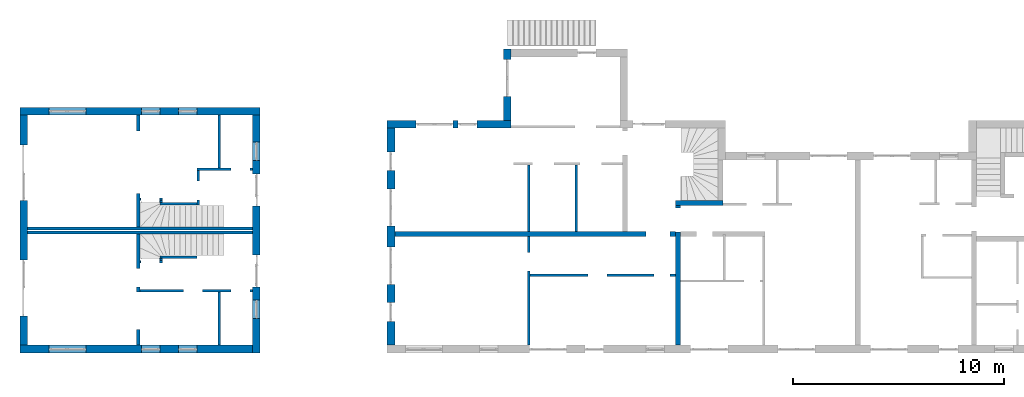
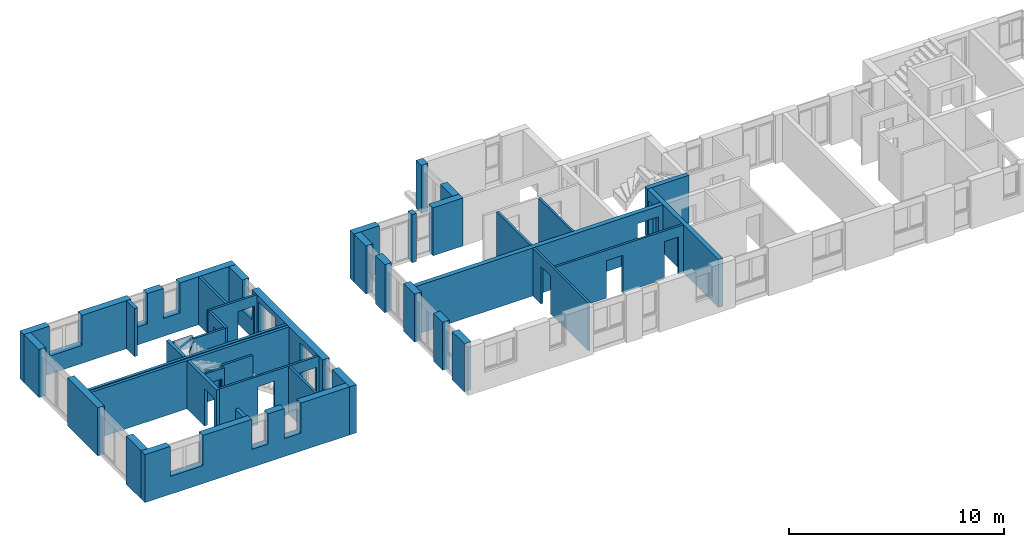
# One storey, part 1 of 41: 31 walls, 31 openings.
"""IFC2X3 building model written with IfcOpenShell, lengths in millimetres."""

import ifcopenshell
import ifcopenshell.guid

model = None  # the IFC model being written
_history = None  # IfcOwnerHistory: only IFC2X3 demands one
_inside = {}  # id of a spatial element -> (the spatial element, [elements in it])
_under = {}  # id of a project, library or spatial element -> (it, [spatial elements below it])
_declared = {}  # id of a project -> (the project, [libraries it declares])
_typed = {}  # id of a type object -> (the type object, [elements of that type])
_made_of = {}  # id of a material, layer set ... -> (it, [elements and type objects made of it])


def new_model(schema):
    """Start an empty IFC model of exactly this schema.

    Asked for "IFC4X3", IfcOpenShell would pick the latest addendum, in which some entities
    have other attributes; the version numbers below select the first issue.
    IFC2X3 requires an IfcOwnerHistory on every rooted entity: one is made here for all.
    """
    global model, _history
    if schema == "IFC4X3":
        model = ifcopenshell.file(schema_version=(4, 3, 0, 0))
    else:
        model = ifcopenshell.file(schema=schema)
    _inside.clear()
    _under.clear()
    _declared.clear()
    _typed.clear()
    _made_of.clear()
    _history = None
    if model.schema == "IFC2X3":
        org = make("IfcOrganization", Name="unknown")
        user = make(
            "IfcPersonAndOrganization",
            ThePerson=make("IfcPerson", FamilyName="unknown"),
            TheOrganization=org,
        )
        app = make(
            "IfcApplication",
            ApplicationDeveloper=org,
            Version="unknown",
            ApplicationFullName="unknown",
            ApplicationIdentifier="unknown",
        )
        _history = make(
            "IfcOwnerHistory",
            OwningUser=user,
            OwningApplication=app,
            ChangeAction="ADDED",
            CreationDate=0,
        )
    return model


def make(cls, **values):
    """One entity of the class cls with the attributes given. An attribute that is None is left unset."""
    return model.create_entity(
        cls, **{name: value for name, value in values.items() if value is not None}
    )


def entity(cls, *values):
    """Any entity or typed value of the class cls, its attributes in the order of the schema. None: left unset."""
    e = model.create_entity(cls)
    for i, value in enumerate(values):
        if value is not None:
            e[i] = value
    return e


def rooted(cls, **values):
    """An entity with a GlobalId (a new one), such as an element, a storey or a relation."""
    return make(cls, GlobalId=ifcopenshell.guid.new(), OwnerHistory=_history, **values)


def si_unit(unit_type, name, prefix=None):
    """IfcSIUnit, for example si_unit("LENGTHUNIT", "METRE", prefix="MILLI")."""
    return make("IfcSIUnit", UnitType=unit_type, Prefix=prefix, Name=name)


def converted_unit(unit_type, name, factor, base, dimensions=None, offset=None):
    """IfcConversionBasedUnit, such as the inch: factor (a typed value) times the base unit."""
    return make(
        "IfcConversionBasedUnit"
        if offset is None
        else "IfcConversionBasedUnitWithOffset",
        ConversionOffset=offset,
        Dimensions=None
        if dimensions is None
        else entity("IfcDimensionalExponents", *dimensions),
        UnitType=unit_type,
        Name=name,
        ConversionFactor=make(
            "IfcMeasureWithUnit", ValueComponent=factor, UnitComponent=base
        ),
    )


def assignment(units):
    """IfcUnitAssignment: the units of a project."""
    return None if units is None else make("IfcUnitAssignment", Units=units)


def point(xyz):
    """IfcCartesianPoint."""
    return None if xyz is None else make("IfcCartesianPoint", Coordinates=xyz)


def direction(xyz):
    """IfcDirection."""
    return None if xyz is None else make("IfcDirection", DirectionRatios=xyz)


def frame(location, z_axis=None, x_axis=None):
    """IfcAxis2Placement3D, a coordinate frame: its origin and axes. An axis left out is left unset."""
    return make(
        "IfcAxis2Placement3D",
        Location=point(location),
        Axis=direction(z_axis),
        RefDirection=direction(x_axis),
    )


def frame_2d(location, x_axis=None):
    """IfcAxis2Placement2D, a coordinate frame in the plane: its origin and x axis."""
    return make(
        "IfcAxis2Placement2D", Location=point(location), RefDirection=direction(x_axis)
    )


def origin():
    """The frame at (0, 0, 0) with its axes left unset."""
    return frame((0.0, 0.0, 0.0))


def origin_with_axes():
    """The frame at (0, 0, 0) with the z axis (0, 0, 1) and the x axis (1, 0, 0) written out."""
    return frame((0.0, 0.0, 0.0), z_axis=(0.0, 0.0, 1.0), x_axis=(1.0, 0.0, 0.0))


def place(relative_to, where):
    """IfcLocalPlacement: puts the frame where relative to a parent placement (None: the world)."""
    return make(
        "IfcLocalPlacement", PlacementRelTo=relative_to, RelativePlacement=where
    )


def context(
    kind, dimensions, precision=None, world=None, true_north=None, identifier=None
):
    """IfcGeometricRepresentationContext, for example the 3D "Model" context."""
    return make(
        "IfcGeometricRepresentationContext",
        ContextIdentifier=identifier,
        ContextType=kind,
        CoordinateSpaceDimension=dimensions,
        Precision=precision,
        WorldCoordinateSystem=world,
        TrueNorth=true_north,
    )


def subcontext(parent, identifier, kind, view, scale=None):
    """IfcGeometricRepresentationSubContext, for example "Body" below "Model"."""
    return make(
        "IfcGeometricRepresentationSubContext",
        ContextIdentifier=identifier,
        ContextType=kind,
        ParentContext=parent,
        TargetScale=scale,
        TargetView=view,
    )


def project(units=None, contexts=None):
    """IfcProject with its units and contexts."""
    return rooted(
        "IfcProject",
        Name="project",
        RepresentationContexts=contexts,
        UnitsInContext=assignment(units),
    )


def spatial(cls, under=None, at=None, **own):
    """A site, building, storey or space (cls), placed at a placement, below another one or the project."""
    s = rooted(cls, ObjectPlacement=at, **own)
    if under is not None:
        _under.setdefault(under.id(), (under, []))[1].append(s)
    return s


def polyline(points):
    """IfcPolyline through the points."""
    return make("IfcPolyline", Points=[point(p) for p in points])


def profile(cls, at=None, kind="AREA", **sizes):
    """A parametric profile (cls). Its sizes go by their IFC names, for example OverallWidth=200.0."""
    return make(cls, ProfileType=kind, Position=at, **sizes)


def rectangle(**sizes):
    """IfcRectangleProfileDef."""
    return profile("IfcRectangleProfileDef", **sizes)


def outline(outer, holes=None, kind="AREA"):
    """IfcArbitraryClosedProfileDef: a profile drawn as a closed curve; with holes, ...WithVoids."""
    if holes is None:
        return make("IfcArbitraryClosedProfileDef", ProfileType=kind, OuterCurve=outer)
    return make(
        "IfcArbitraryProfileDefWithVoids",
        ProfileType=kind,
        OuterCurve=outer,
        InnerCurves=holes,
    )


def extrude(swept, where, along, depth):
    """IfcExtrudedAreaSolid: the profile swept, set in the frame where, extruded along a direction by depth."""
    return make(
        "IfcExtrudedAreaSolid",
        SweptArea=swept,
        Position=where,
        ExtrudedDirection=direction(along),
        Depth=depth,
    )


def shape(context_of_items, identifier, shape_type, items):
    """IfcShapeRepresentation: the items that make up one representation, for example the "Body"."""
    return make(
        "IfcShapeRepresentation",
        ContextOfItems=context_of_items,
        RepresentationIdentifier=identifier,
        RepresentationType=shape_type,
        Items=items,
    )


def material(Name=None, Category=None):
    """IfcMaterial."""
    return make("IfcMaterial", Name=Name, Category=Category)


def layer(
    of_material, thickness, ventilated=None, Name=None, Category=None, Priority=None
):
    """IfcMaterialLayer: one layer of a wall or slab, of a material (None: an air gap)."""
    return make(
        "IfcMaterialLayer",
        Material=of_material,
        LayerThickness=thickness,
        IsVentilated=ventilated,
        Name=Name,
        Category=Category,
        Priority=Priority,
    )


def layer_set(layers, Name=None):
    """IfcMaterialLayerSet."""
    return make("IfcMaterialLayerSet", MaterialLayers=layers, LayerSetName=Name)


def layer_usage(for_layer_set, set_direction, sense, offset, extent=None):
    """IfcMaterialLayerSetUsage: how a layer set lies in its element."""
    return make(
        "IfcMaterialLayerSetUsage",
        ForLayerSet=for_layer_set,
        LayerSetDirection=set_direction,
        DirectionSense=sense,
        OffsetFromReferenceLine=offset,
        ReferenceExtent=extent,
    )


def made_of(thing, what):
    """Note that an element or type object is made of a material, layer set ...; save() writes the relation."""
    if what is not None:
        _made_of.setdefault(what.id(), (what, []))[1].append(thing)
    return thing


def element(
    cls,
    number,
    at=None,
    inside=None,
    cuts=None,
    type_object=None,
    material=None,
    context=None,
    identifier="Body",
    shape_type=None,
    held_by="IfcProductDefinitionShape",
    body=None,
    shapes=None,
    **own,
):
    """One element of the class cls, such as IfcWall. Its Tag is "e" and its number.

    at: its placement. inside: the storey or other place that contains it. cuts: it is an
    opening in that element (IfcRelVoidsElement). A single representation is given by context,
    identifier, shape_type and body (its items); several are given by shapes. held_by: the class
    of the entity that holds the representations. save() writes the other relations.
    """
    e = rooted(cls, Tag="e%d" % number, ObjectPlacement=at, **own)
    if body is not None:
        shapes = [shape(context, identifier, shape_type, body)]
    if shapes is not None:
        e.Representation = make(held_by, Representations=shapes)
    if inside is not None:
        _inside.setdefault(inside.id(), (inside, []))[1].append(e)
    if cuts is not None:
        rooted(
            "IfcRelVoidsElement", RelatingBuildingElement=cuts, RelatedOpeningElement=e
        )
    if type_object is not None:
        _typed.setdefault(type_object.id(), (type_object, []))[1].append(e)
    return made_of(e, material)


def aggregate(whole, parts):
    """IfcRelAggregates: a whole, such as a stair, and the parts it consists of."""
    return rooted("IfcRelAggregates", RelatingObject=whole, RelatedObjects=parts)


def save(model, path):
    """Write the relations noted so far, then the file.

    IfcRelAggregates (storeys below a building ...), IfcRelContainedInSpatialStructure (elements
    in a storey), IfcRelDefinesByType, IfcRelAssociatesMaterial and IfcRelDeclares: one each for
    every whole, place, type object, material and project.
    """
    for whole, parts in _under.values():
        aggregate(whole, parts)
    for where, things in _inside.values():
        rooted(
            "IfcRelContainedInSpatialStructure",
            RelatedElements=things,
            RelatingStructure=where,
        )
    for kind, things in _typed.values():
        rooted("IfcRelDefinesByType", RelatedObjects=things, RelatingType=kind)
    for what, things in _made_of.values():
        rooted("IfcRelAssociatesMaterial", RelatedObjects=things, RelatingMaterial=what)
    for by, libraries in _declared.values():
        rooted("IfcRelDeclares", RelatingContext=by, RelatedDefinitions=libraries)
    model.write(path)


model = new_model("IFC2X3")

# Units and contexts
model_context = context("Model", 3, precision=1e-05, world=origin())
body_context = subcontext(model_context, "Body", "Model", "MODEL_VIEW")
ifc_project = project(units=[si_unit("LENGTHUNIT", "METRE", prefix="MILLI"), converted_unit("PLANEANGLEUNIT", "DEGREE", entity("IfcPlaneAngleMeasure", 0.0174532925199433), si_unit("PLANEANGLEUNIT", "RADIAN"), dimensions=[0, 0, 0, 0, 0, 0, 0]), si_unit("AREAUNIT", "SQUARE_METRE"), si_unit("VOLUMEUNIT", "CUBIC_METRE")], contexts=[model_context])

# Building, storey
building_placement = place(None, origin())
building = spatial("IfcBuilding", under=ifc_project, at=building_placement, Name="Gebäude", CompositionType="ELEMENT")
storey_placement = place(building_placement, frame((0.0, 0.0, -200.0), z_axis=(0.0, 0.0, 1.0), x_axis=(1.0, 0.0, 0.0)))
storey = spatial("IfcBuildingStorey", under=building, at=storey_placement, Name="EG.- Grundriss", CompositionType="ELEMENT", Elevation=-200.0)

# Wall, openings
ifc_material_1 = material(Name="Poroton")
ifc_layer_1 = layer(ifc_material_1, 365.0000000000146)
ifc_layer_set_1 = layer_set([ifc_layer_1])
ifc_layer_usage_1 = layer_usage(ifc_layer_set_1, "AXIS2", "POSITIVE", 0.0)
wall_1_placement = place(storey_placement, frame((130992.7928067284, 125274.8877324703, 0.0), z_axis=(0.0, 0.0, 1.0), x_axis=(1.0, -2.749253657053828e-11, 0.0)))
wall_1 = element("IfcWallStandardCase", 1, at=wall_1_placement, inside=storey, material=ifc_layer_usage_1, Name="<Unnamed Element>", context=body_context, shape_type="SweptSolid", body=[
    extrude(rectangle(XDim=10999.99999999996, YDim=365.0000000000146, at=frame_2d((5499.999999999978, 182.5000000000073), x_axis=(1.0, 0.0))), origin_with_axes(), (0.0, 0.0, 1.0), 2730.0),
])
opening_1_placement = place(wall_1_placement, frame((7489.999999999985, -3.477907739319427e-11, 1020.0), z_axis=(0.0, 1.0, 0.0), x_axis=(0.0, 0.0, 1.0)))
element("IfcOpeningElement", 2, at=opening_1_placement, cuts=wall_1, Name="Fensteröffnung", ObjectType="Opening", context=body_context, shape_type="SweptSolid", body=[
    extrude(rectangle(XDim=1710.0, YDim=885.0, at=frame_2d((855.0, 442.5), x_axis=(1.0, 0.0))), origin_with_axes(), (0.0, 0.0, 1.0), 365.0000000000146),
])
opening_2_placement = place(wall_1_placement, frame((5739.999999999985, -1.658918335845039e-11, 1020.0), z_axis=(0.0, 1.0, 0.0), x_axis=(0.0, 0.0, 1.0)))
element("IfcOpeningElement", 3, at=opening_2_placement, cuts=wall_1, Name="Fensteröffnung", ObjectType="Opening", context=body_context, shape_type="SweptSolid", body=[
    extrude(rectangle(XDim=1710.0, YDim=885.0, at=frame_2d((855.0, 442.5), x_axis=(1.0, 0.0))), origin_with_axes(), (0.0, 0.0, 1.0), 365.0000000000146),
])
opening_3_placement = place(wall_1_placement, frame((1364.999999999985, -7.494236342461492e-12, 1020.0), z_axis=(0.0, 1.0, 0.0), x_axis=(0.0, 0.0, 1.0)))
element("IfcOpeningElement", 4, at=opening_3_placement, cuts=wall_1, Name="Fensteröffnung", ObjectType="Opening", context=body_context, shape_type="SweptSolid", body=[
    extrude(rectangle(XDim=1710.0, YDim=1760.0, at=frame_2d((854.9999999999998, 880.0), x_axis=(1.0, 0.0))), origin_with_axes(), (0.0, 0.0, 1.0), 365.0000000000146),
])

ifc_material_2 = material(Name="Poroton")
ifc_layer_2 = layer(ifc_material_2, 365.0000000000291)
ifc_layer_set_2 = layer_set([ifc_layer_2])
ifc_layer_usage_2 = layer_usage(ifc_layer_set_2, "AXIS2", "POSITIVE", 0.0)
wall_2_placement = place(storey_placement, frame((142357.7928067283, 136889.8877324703, 0.0), z_axis=(0.0, 0.0, 1.0), x_axis=(-1.0, 0.0, 0.0)))
wall_2 = element("IfcWallStandardCase", 5, at=wall_2_placement, inside=storey, material=ifc_layer_usage_2, Name="<Unnamed Element>", context=body_context, shape_type="SweptSolid", body=[
    extrude(rectangle(XDim=11365.00000000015, YDim=365.0000000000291, at=frame_2d((5682.500000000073, 182.5000000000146), x_axis=(1.0, 0.0))), origin_with_axes(), (0.0, 0.0, 1.0), 2730.0),
])
opening_4_placement = place(wall_2_placement, frame((2990.0, 0.0, 1020.0), z_axis=(0.0, 1.0, 0.0), x_axis=(0.0, 0.0, 1.0)))
element("IfcOpeningElement", 6, at=opening_4_placement, cuts=wall_2, Name="Fensteröffnung", ObjectType="Opening", context=body_context, shape_type="SweptSolid", body=[
    extrude(rectangle(XDim=1710.0, YDim=885.0, at=frame_2d((855.0, 442.5), x_axis=(1.0, 0.0))), origin_with_axes(), (0.0, 0.0, 1.0), 365.0000000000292),
])
opening_5_placement = place(wall_2_placement, frame((4740.0, 0.0, 1020.0), z_axis=(0.0, 1.0, 0.0), x_axis=(0.0, 0.0, 1.0)))
element("IfcOpeningElement", 7, at=opening_5_placement, cuts=wall_2, Name="Fensteröffnung", ObjectType="Opening", context=body_context, shape_type="SweptSolid", body=[
    extrude(rectangle(XDim=1710.0, YDim=885.0, at=frame_2d((855.0, 442.5), x_axis=(1.0, 0.0))), origin_with_axes(), (0.0, 0.0, 1.0), 365.0000000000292),
])
opening_6_placement = place(wall_2_placement, frame((8240.0, 0.0, 1020.0), z_axis=(0.0, 1.0, 0.0), x_axis=(0.0, 0.0, 1.0)))
element("IfcOpeningElement", 8, at=opening_6_placement, cuts=wall_2, Name="Fensteröffnung", ObjectType="Opening", context=body_context, shape_type="SweptSolid", body=[
    extrude(rectangle(XDim=1710.0, YDim=1760.0, at=frame_2d((854.9999999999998, 880.0), x_axis=(1.0, 0.0))), origin_with_axes(), (0.0, 0.0, 1.0), 365.0000000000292),
])

ifc_material_3 = material(Name="Poroton")
ifc_layer_3 = layer(ifc_material_3, 365.0000000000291)
ifc_layer_set_3 = layer_set([ifc_layer_3])
ifc_layer_usage_3 = layer_usage(ifc_layer_set_3, "AXIS2", "POSITIVE", 0.0)
wall_3_placement = place(storey_placement, frame((142357.7928067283, 125274.8877321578, 0.0), z_axis=(0.0, 0.0, 1.0), x_axis=(0.0, 1.0, 0.0)))
wall_3 = element("IfcWallStandardCase", 9, at=wall_3_placement, inside=storey, material=ifc_layer_usage_3, Name="<Unnamed Element>", context=body_context, shape_type="SweptSolid", body=[
    extrude(rectangle(XDim=11250.00000031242, YDim=365.0000000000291, at=frame_2d((5625.000000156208, 182.5000000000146), x_axis=(1.0, 0.0))), origin_with_axes(), (0.0, 0.0, 1.0), 2730.0),
])
opening_7_placement = place(wall_3_placement, frame((6955.000000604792, 0.0, 0.0), z_axis=(0.0, 1.0, 0.0), x_axis=(0.0, 0.0, 1.0)))
element("IfcOpeningElement", 10, at=opening_7_placement, cuts=wall_3, Name="Türöffnung", ObjectType="Opening", context=body_context, shape_type="SweptSolid", body=[
    extrude(rectangle(XDim=2430.0, YDim=1510.0, at=frame_2d((1215.0, 755.0), x_axis=(1.0, 0.0))), origin_with_axes(), (0.0, 0.0, 1.0), 365.0000000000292),
])
opening_8_placement = place(wall_3_placement, frame((3125.0, 0.0, 0.0), z_axis=(0.0, 1.0, 0.0), x_axis=(0.0, 0.0, 1.0)))
element("IfcOpeningElement", 11, at=opening_8_placement, cuts=wall_3, Name="Türöffnung", ObjectType="Opening", context=body_context, shape_type="SweptSolid", body=[
    extrude(rectangle(XDim=2430.0, YDim=1510.0, at=frame_2d((1215.0, 755.0), x_axis=(1.0, 0.0))), origin_with_axes(), (0.0, 0.0, 1.0), 365.0000000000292),
])
opening_9_placement = place(wall_3_placement, frame((9105.000000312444, 0.0, 1020.0), z_axis=(0.0, 1.0, 0.0), x_axis=(0.0, 0.0, 1.0)))
element("IfcOpeningElement", 12, at=opening_9_placement, cuts=wall_3, Name="Fensteröffnung", ObjectType="Opening", context=body_context, shape_type="SweptSolid", body=[
    extrude(rectangle(XDim=1710.0, YDim=885.0, at=frame_2d((855.0, 442.5), x_axis=(1.0, 0.0))), origin_with_axes(), (0.0, 0.0, 1.0), 365.0000000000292),
])
opening_10_placement = place(wall_3_placement, frame((1625.0, 0.0, 1020.0), z_axis=(0.0, 1.0, 0.0), x_axis=(0.0, 0.0, 1.0)))
element("IfcOpeningElement", 13, at=opening_10_placement, cuts=wall_3, Name="Fensteröffnung", ObjectType="Opening", context=body_context, shape_type="SweptSolid", body=[
    extrude(rectangle(XDim=1710.0, YDim=885.0, at=frame_2d((855.0, 442.5), x_axis=(1.0, 0.0))), origin_with_axes(), (0.0, 0.0, 1.0), 365.0000000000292),
])

ifc_material_4 = material(Name="Poroton")
ifc_layer_4 = layer(ifc_material_4, 365.0)
ifc_layer_set_4 = layer_set([ifc_layer_4])
ifc_layer_usage_4 = layer_usage(ifc_layer_set_4, "AXIS2", "POSITIVE", 0.0)
wall_4_placement = place(storey_placement, frame((148357.7928067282, 135909.8877324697, 0.0), z_axis=(0.0, 0.0, 1.0), x_axis=(1.70032115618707e-14, -1.0, 0.0)))
wall_4 = element("IfcWallStandardCase", 14, at=wall_4_placement, inside=storey, material=ifc_layer_usage_4, Name="<Unnamed Element>", context=body_context, shape_type="SweptSolid", body=[
    extrude(rectangle(XDim=10269.99999999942, YDim=365.0, at=frame_2d((5134.999999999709, 182.5), x_axis=(1.0, 0.0))), origin_with_axes(), (0.0, 0.0, 1.0), 2730.0),
])
opening_11_placement = place(wall_4_placement, frame((8259.999999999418, -9.487848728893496e-11, 0.0), z_axis=(0.0, 1.0, 0.0), x_axis=(0.0, 0.0, 1.0)))
element("IfcOpeningElement", 15, at=opening_11_placement, cuts=wall_4, Name="Fensteröffnung", ObjectType="Opening", context=body_context, shape_type="SweptSolid", body=[
    extrude(rectangle(XDim=2730.0, YDim=885.0, at=frame_2d((1365.0, 442.5), x_axis=(1.0, 0.0))), origin_with_axes(), (0.0, 0.0, 1.0), 365.0),
])
opening_12_placement = place(wall_4_placement, frame((5634.999999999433, -7.668859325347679e-11, 0.0), z_axis=(0.0, 1.0, 0.0), x_axis=(0.0, 0.0, 1.0)))
element("IfcOpeningElement", 16, at=opening_12_placement, cuts=wall_4, Name="Fensteröffnung", ObjectType="Opening", context=body_context, shape_type="SweptSolid", body=[
    extrude(rectangle(XDim=2730.0, YDim=1760.0, at=frame_2d((1365.0, 880.0), x_axis=(1.0, 0.0))), origin_with_axes(), (0.0, 0.0, 1.0), 365.0),
])
opening_13_placement = place(wall_4_placement, frame((2874.999999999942, -2.54658516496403e-11, 0.0), z_axis=(0.0, 1.0, 0.0), x_axis=(0.0, 0.0, 1.0)))
element("IfcOpeningElement", 17, at=opening_13_placement, cuts=wall_4, Name="Fensteröffnung", ObjectType="Opening", context=body_context, shape_type="SweptSolid", body=[
    extrude(rectangle(XDim=2730.0, YDim=1760.0, at=frame_2d((1365.0, 880.0), x_axis=(1.0, 0.0))), origin_with_axes(), (0.0, 0.0, 1.0), 365.0),
])
opening_14_placement = place(wall_4_placement, frame((1124.999999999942, -3.63797880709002e-12, 0.0), z_axis=(0.0, 1.0, 0.0), x_axis=(0.0, 0.0, 1.0)))
element("IfcOpeningElement", 18, at=opening_14_placement, cuts=wall_4, Name="Fensteröffnung", ObjectType="Opening", context=body_context, shape_type="SweptSolid", body=[
    extrude(rectangle(XDim=2730.0, YDim=885.0, at=frame_2d((1365.0, 442.5), x_axis=(1.0, 0.0))), origin_with_axes(), (0.0, 0.0, 1.0), 365.0),
])

# Wall, opening
ifc_material_5 = material(Name="Poroton")
ifc_layer_5 = layer(ifc_material_5, 365.0000000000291)
ifc_layer_set_5 = layer_set([ifc_layer_5])
ifc_layer_usage_5 = layer_usage(ifc_layer_set_5, "AXIS2", "POSITIVE", 0.0)
wall_5_placement = place(storey_placement, frame((154222.7928067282, 136274.8877324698, 0.0), z_axis=(0.0, 0.0, 1.0), x_axis=(0.0, 1.0, 0.0)))
wall_5 = element("IfcWallStandardCase", 19, at=wall_5_placement, inside=storey, material=ifc_layer_usage_5, Name="<Unnamed Element>", context=body_context, shape_type="SweptSolid", body=[
    extrude(rectangle(XDim=3374.999999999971, YDim=365.0000000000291, at=frame_2d((1687.499999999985, 182.5000000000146), x_axis=(1.0, 0.0))), origin_with_axes(), (0.0, 0.0, 1.0), 2730.0),
])
opening_15_placement = place(wall_5_placement, frame((1124.999999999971, 0.0, 0.0), z_axis=(0.0, 1.0, 0.0), x_axis=(0.0, 0.0, 1.0)))
element("IfcOpeningElement", 20, at=opening_15_placement, cuts=wall_5, Name="Fensteröffnung", ObjectType="Opening", context=body_context, shape_type="SweptSolid", body=[
    extrude(rectangle(XDim=2730.0, YDim=1760.0, at=frame_2d((1365.0, 880.0), x_axis=(1.0, 0.0))), origin_with_axes(), (0.0, 0.0, 1.0), 365.0000000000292),
])

# Wall, openings
ifc_material_6 = material(Name="Poroton")
ifc_layer_6 = layer(ifc_material_6, 365.0000000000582)
ifc_layer_set_6 = layer_set([ifc_layer_6])
ifc_layer_usage_6 = layer_usage(ifc_layer_set_6, "AXIS2", "POSITIVE", 0.0)
wall_6_placement = place(storey_placement, frame((154222.7928067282, 136274.8877324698, 0.0), z_axis=(0.0, 0.0, 1.0), x_axis=(-1.0, 0.0, 0.0)))
wall_6 = element("IfcWallStandardCase", 21, at=wall_6_placement, inside=storey, material=ifc_layer_usage_6, Name="<Unnamed Element>", context=body_context, shape_type="SweptSolid", body=[
    extrude(rectangle(XDim=5865.0, YDim=365.0000000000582, at=frame_2d((2932.5, 182.5000000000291), x_axis=(1.0, 0.0))), origin_with_axes(), (0.0, 0.0, 1.0), 2730.0),
])
opening_16_placement = place(wall_6_placement, frame((1615.0, 0.0, 0.0), z_axis=(0.0, 1.0, 0.0), x_axis=(0.0, 0.0, 1.0)))
element("IfcOpeningElement", 22, at=opening_16_placement, cuts=wall_6, Name="Fensteröffnung", ObjectType="Opening", context=body_context, shape_type="SweptSolid", body=[
    extrude(rectangle(XDim=2730.0, YDim=885.0, at=frame_2d((1365.0, 442.5), x_axis=(1.0, 0.0))), origin_with_axes(), (0.0, 0.0, 1.0), 365.0000000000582),
])
opening_17_placement = place(wall_6_placement, frame((2740.0, 0.0, 0.0), z_axis=(0.0, 1.0, 0.0), x_axis=(0.0, 0.0, 1.0)))
element("IfcOpeningElement", 23, at=opening_17_placement, cuts=wall_6, Name="Fensteröffnung", ObjectType="Opening", context=body_context, shape_type="SweptSolid", body=[
    extrude(rectangle(XDim=2730.0, YDim=1760.0, at=frame_2d((1365.0, 880.0), x_axis=(1.0, 0.0))), origin_with_axes(), (0.0, 0.0, 1.0), 365.0000000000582),
])

# Wall
ifc_material_7 = material(Name="Hlz")
ifc_layer_7 = layer(ifc_material_7, 150.0)
ifc_layer_set_7 = layer_set([ifc_layer_7])
ifc_layer_usage_7 = layer_usage(ifc_layer_set_7, "AXIS2", "POSITIVE", 0.0)
wall_7_placement = place(storey_placement, frame((141992.7928067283, 131049.8877324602, 0.0), z_axis=(0.0, 0.0, 1.0), x_axis=(-1.0, 0.0, 0.0)))
element("IfcWallStandardCase", 24, at=wall_7_placement, inside=storey, material=ifc_layer_usage_7, Name="<Unnamed Element>", context=body_context, shape_type="SweptSolid", body=[
    extrude(rectangle(XDim=10634.99999999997, YDim=150.0, at=frame_2d((5317.499999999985, 75.0), x_axis=(1.0, 0.0))), origin_with_axes(), (0.0, 0.0, 1.0), 2730.0),
])

# Wall, openings
ifc_material_8 = material(Name="Poroton")
ifc_layer_8 = layer(ifc_material_8, 365.0)
ifc_layer_set_8 = layer_set([ifc_layer_8])
ifc_layer_usage_8 = layer_usage(ifc_layer_set_8, "AXIS2", "POSITIVE", 0.0)
wall_8_placement = place(storey_placement, frame((130992.7928067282, 136524.8877324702, 0.0), z_axis=(0.0, 0.0, 1.0), x_axis=(1.336877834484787e-14, -1.0, 0.0)))
wall_8 = element("IfcWallStandardCase", 25, at=wall_8_placement, inside=storey, material=ifc_layer_usage_8, Name="<Unnamed Element>", context=body_context, shape_type="SweptSolid", body=[
    extrude(rectangle(XDim=10884.99999999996, YDim=365.0, at=frame_2d((5442.499999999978, 182.5), x_axis=(1.0, 0.0))), origin_with_axes(), (0.0, 0.0, 1.0), 2730.0),
])
opening_18_placement = place(wall_8_placement, frame((1409.987487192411, 2.31377272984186e-11, 0.0), z_axis=(0.0, 1.0, 0.0), x_axis=(0.0, 0.0, 1.0)))
element("IfcOpeningElement", 26, at=opening_18_placement, cuts=wall_8, Name="Fensteröffnung", ObjectType="Opening", context=body_context, shape_type="SweptSolid", body=[
    extrude(rectangle(XDim=2730.0, YDim=2635.0, at=frame_2d((1365.0, 1317.5), x_axis=(1.0, 0.0))), origin_with_axes(), (0.0, 0.0, 1.0), 364.9999999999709),
])
opening_19_placement = place(wall_8_placement, frame((6864.999999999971, 1.964508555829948e-12, 0.0), z_axis=(0.0, 1.0, 0.0), x_axis=(0.0, 0.0, 1.0)))
element("IfcOpeningElement", 27, at=opening_19_placement, cuts=wall_8, Name="Fensteröffnung", ObjectType="Opening", context=body_context, shape_type="SweptSolid", body=[
    extrude(rectangle(XDim=2730.0, YDim=2635.0, at=frame_2d((1365.0, 1317.5), x_axis=(1.0, 0.0))), origin_with_axes(), (0.0, 0.0, 1.0), 364.9999999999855),
])

# Wall
ifc_material_9 = material(Name="Hlz")
ifc_layer_9 = layer(ifc_material_9, 150.0)
ifc_layer_set_9 = layer_set([ifc_layer_9])
ifc_layer_usage_9 = layer_usage(ifc_layer_set_9, "AXIS2", "POSITIVE", 0.0)
wall_9_placement = place(storey_placement, frame((141992.7928067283, 131239.8877324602, 0.0), z_axis=(0.0, 0.0, 1.0), x_axis=(-1.0, 0.0, 0.0)))
element("IfcWallStandardCase", 28, at=wall_9_placement, inside=storey, material=ifc_layer_usage_9, Name="<Unnamed Element>", context=body_context, shape_type="SweptSolid", body=[
    extrude(rectangle(XDim=10634.99999999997, YDim=150.0, at=frame_2d((5317.499999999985, 75.0), x_axis=(1.0, 0.0))), origin_with_axes(), (0.0, 0.0, 1.0), 2730.0),
])

# Wall, openings
ifc_material_10 = material(Name="Hlz")
ifc_layer_10 = layer(ifc_material_10, 115.0)
ifc_layer_set_10 = layer_set([ifc_layer_10])
ifc_layer_usage_10 = layer_usage(ifc_layer_set_10, "AXIS2", "POSITIVE", 0.0)
wall_10_placement = place(storey_placement, frame((162002.7928067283, 129014.8877324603, 0.0), z_axis=(0.0, 0.0, 1.0), x_axis=(-1.0, 0.0, 0.0)))
wall_10 = element("IfcWallStandardCase", 29, at=wall_10_placement, inside=storey, material=ifc_layer_usage_10, Name="<Unnamed Element>", context=body_context, shape_type="SweptSolid", body=[
    extrude(rectangle(XDim=6885.0, YDim=115.0, at=frame_2d((3442.5, 57.5), x_axis=(1.0, 0.0))), origin_with_axes(), (0.0, 0.0, 1.0), 2730.0),
])
opening_20_placement = place(wall_10_placement, frame((250.0, 0.0, 0.0), z_axis=(0.0, 1.0, 0.0), x_axis=(0.0, 0.0, 1.0)))
element("IfcOpeningElement", 30, at=opening_20_placement, cuts=wall_10, Name="Türöffnung", ObjectType="Opening", context=body_context, shape_type="SweptSolid", body=[
    extrude(rectangle(XDim=2135.0, YDim=760.0, at=frame_2d((1067.5, 380.0), x_axis=(1.0, 0.0))), origin_with_axes(), (0.0, 0.0, 1.0), 115.0),
])
opening_21_placement = place(wall_10_placement, frame((3250.0, 0.0, 0.0), z_axis=(0.0, 1.0, 0.0), x_axis=(0.0, 0.0, 1.0)))
element("IfcOpeningElement", 31, at=opening_21_placement, cuts=wall_10, Name="Türöffnung", ObjectType="Opening", context=body_context, shape_type="SweptSolid", body=[
    extrude(rectangle(XDim=2135.0, YDim=885.0, at=frame_2d((1067.5, 442.5), x_axis=(1.0, 0.0))), origin_with_axes(), (0.0, 0.0, 1.0), 115.0),
])

# Walls
ifc_material_11 = material(Name="Hlz")
ifc_layer_11 = layer(ifc_material_11, 115.0)
ifc_layer_set_11 = layer_set([ifc_layer_11])
ifc_layer_usage_11 = layer_usage(ifc_layer_set_11, "AXIS2", "POSITIVE", 0.0)
wall_11_placement = place(storey_placement, frame((157367.7928067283, 131014.8877324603, 0.0), z_axis=(0.0, 0.0, 1.0), x_axis=(0.0, 0.9999999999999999, 0.0)))
element("IfcWallStandardCase", 32, at=wall_11_placement, inside=storey, material=ifc_layer_usage_11, Name="<Unnamed Element>", context=body_context, shape_type="SweptSolid", body=[
    extrude(rectangle(XDim=3145.000000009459, YDim=115.0, at=frame_2d((1572.500000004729, 57.49999999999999), x_axis=(1.0, 0.0))), origin_with_axes(), (0.0, 0.0, 1.0), 2730.0),
])
ifc_material_12 = material(Name="Hlz")
ifc_layer_12 = layer(ifc_material_12, 115.0)
ifc_layer_set_12 = layer_set([ifc_layer_12])
ifc_layer_usage_12 = layer_usage(ifc_layer_set_12, "AXIS2", "POSITIVE", 0.0)
wall_12_placement = place(storey_placement, frame((155117.7928067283, 131014.8877324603, 0.0), z_axis=(0.0, 0.0, 1.0), x_axis=(0.0, 0.9999999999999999, 0.0)))
element("IfcWallStandardCase", 33, at=wall_12_placement, inside=storey, material=ifc_layer_usage_12, Name="<Unnamed Element>", context=body_context, shape_type="SweptSolid", body=[
    extrude(rectangle(XDim=3145.000000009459, YDim=115.0, at=frame_2d((1572.500000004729, 57.49999999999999), x_axis=(1.0, 0.0))), origin_with_axes(), (0.0, 0.0, 1.0), 2730.0),
])

# Wall, opening
ifc_material_13 = material(Name="Hlz")
ifc_layer_13 = layer(ifc_material_13, 115.0)
ifc_layer_set_13 = layer_set([ifc_layer_13])
ifc_layer_usage_13 = layer_usage(ifc_layer_set_13, "AXIS2", "POSITIVE", 0.0)
wall_13_placement = place(storey_placement, frame((155117.7928067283, 125639.8877322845, 0.0), z_axis=(0.0, 0.0, 1.0), x_axis=(0.0, 0.9999999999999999, 0.0)))
wall_13 = element("IfcWallStandardCase", 34, at=wall_13_placement, inside=storey, material=ifc_layer_usage_13, Name="<Unnamed Element>", context=body_context, shape_type="SweptSolid", body=[
    extrude(rectangle(XDim=5135.000000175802, YDim=115.0, at=frame_2d((2567.500000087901, 57.49999999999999), x_axis=(1.0, 0.0))), origin_with_axes(), (0.0, 0.0, 1.0), 2730.0),
])
opening_22_placement = place(wall_13_placement, frame((3500.000332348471, 0.0, 0.0), z_axis=(0.0, 1.0, 0.0), x_axis=(0.0, 0.0, 1.0)))
element("IfcOpeningElement", 35, at=opening_22_placement, cuts=wall_13, Name="Türöffnung", ObjectType="Opening", context=body_context, shape_type="SweptSolid", body=[
    extrude(rectangle(XDim=2135.0, YDim=885.0, at=frame_2d((1067.5, 442.5), x_axis=(1.0, 0.0))), origin_with_axes(), (0.0, 0.0, 1.0), 115.0),
])

# Walls
ifc_material_14 = material(Name="Hlz")
ifc_layer_14 = layer(ifc_material_14, 115.0)
ifc_layer_set_14 = layer_set([ifc_layer_14])
ifc_layer_usage_14 = layer_usage(ifc_layer_set_14, "AXIS2", "POSITIVE", 0.0)
wall_14_placement = place(storey_placement, frame((140482.7928067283, 134014.8877324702, 0.0), z_axis=(0.0, 0.0, 1.0), x_axis=(0.0, 1.0, 0.0)))
element("IfcWallStandardCase", 36, at=wall_14_placement, inside=storey, material=ifc_layer_usage_14, Name="<Unnamed Element>", context=body_context, shape_type="SweptSolid", body=[
    extrude(rectangle(XDim=2510.0, YDim=115.0, at=frame_2d((1255.0, 57.5), x_axis=(1.0, 0.0))), origin_with_axes(), (0.0, 0.0, 1.0), 2730.0),
])
ifc_material_15 = material(Name="Hlz")
ifc_layer_15 = layer(ifc_material_15, 115.0)
ifc_layer_set_15 = layer_set([ifc_layer_15])
ifc_layer_usage_15 = layer_usage(ifc_layer_set_15, "AXIS2", "POSITIVE", 0.0)
wall_15_placement = place(storey_placement, frame((137726.5907379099, 132395.5589630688, 0.0), z_axis=(0.0, 0.0, 1.0), x_axis=(0.0, 0.9999999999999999, 0.0)))
element("IfcWallStandardCase", 37, at=wall_15_placement, inside=storey, material=ifc_layer_usage_15, Name="<Unnamed Element>", context=body_context, shape_type="SweptSolid", body=[
    extrude(rectangle(XDim=94.3287693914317, YDim=115.0, at=frame_2d((47.16438469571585, 57.49999999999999), x_axis=(1.0, 0.0))), origin_with_axes(), (0.0, 0.0, 1.0), 2730.0),
])

# Wall, opening
ifc_material_16 = material(Name="Hlz")
ifc_layer_16 = layer(ifc_material_16, 115.0)
ifc_layer_set_16 = layer_set([ifc_layer_16])
ifc_layer_usage_16 = layer_usage(ifc_layer_set_16, "AXIS2", "POSITIVE", 0.0)
wall_16_placement = place(storey_placement, frame((141992.7928067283, 134014.8877324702, 0.0), z_axis=(0.0, 0.0, 1.0), x_axis=(-1.0, 0.0, 0.0)))
wall_16 = element("IfcWallStandardCase", 38, at=wall_16_placement, inside=storey, material=ifc_layer_usage_16, Name="<Unnamed Element>", context=body_context, shape_type="SweptSolid", body=[
    extrude(rectangle(XDim=2625.0, YDim=115.0, at=frame_2d((1312.5, 57.5), x_axis=(1.0, 0.0))), origin_with_axes(), (0.0, 0.0, 1.0), 2730.0),
])
opening_23_placement = place(wall_16_placement, frame((125.0, 0.0, 0.0), z_axis=(0.0, 1.0, 0.0), x_axis=(0.0, 0.0, 1.0)))
element("IfcOpeningElement", 39, at=opening_23_placement, cuts=wall_16, Name="Türöffnung", ObjectType="Opening", context=body_context, shape_type="SweptSolid", body=[
    extrude(rectangle(XDim=2135.0, YDim=885.0, at=frame_2d((1067.5, 442.5), x_axis=(1.0, 0.0))), origin_with_axes(), (0.0, 0.0, 1.0), 115.0),
])

ifc_material_17 = material(Name="Hlz")
ifc_layer_17 = layer(ifc_material_17, 115.0)
ifc_layer_set_17 = layer_set([ifc_layer_17])
ifc_layer_usage_17 = layer_usage(ifc_layer_set_17, "AXIS2", "POSITIVE", 0.0)
wall_17_placement = place(storey_placement, frame((139367.7928067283, 133899.8877324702, 0.0), z_axis=(0.0, 0.0, 1.0), x_axis=(0.0, -1.0, 0.0)))
wall_17 = element("IfcWallStandardCase", 40, at=wall_17_placement, inside=storey, material=ifc_layer_usage_17, Name="<Unnamed Element>", context=body_context, shape_type="SweptSolid", body=[
    extrude(rectangle(XDim=1619.328769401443, YDim=115.0, at=frame_2d((809.6643847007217, 57.5), x_axis=(1.0, 0.0))), origin_with_axes(), (0.0, 0.0, 1.0), 2730.0),
])
opening_24_placement = place(wall_17_placement, frame((494.3287694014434, 0.0, 0.0), z_axis=(0.0, 1.0, 0.0), x_axis=(0.0, 0.0, 1.0)))
element("IfcOpeningElement", 41, at=opening_24_placement, cuts=wall_17, Name="Türöffnung", ObjectType="Opening", context=body_context, shape_type="SweptSolid", body=[
    extrude(rectangle(XDim=2135.0, YDim=885.0, at=frame_2d((1067.5, 442.5), x_axis=(1.0, 0.0))), origin_with_axes(), (0.0, 0.0, 1.0), 115.0),
])

# Walls
ifc_material_18 = material(Name="Hlz")
ifc_layer_18 = layer(ifc_material_18, 115.0)
ifc_layer_set_18 = layer_set([ifc_layer_18])
ifc_layer_usage_18 = layer_usage(ifc_layer_set_18, "AXIS2", "POSITIVE", 0.0)
wall_18_placement = place(storey_placement, frame((139367.7928067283, 132395.5589630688, 0.0), z_axis=(0.0, 0.0, 1.0), x_axis=(-1.0, 0.0, 0.0)))
element("IfcWallStandardCase", 42, at=wall_18_placement, inside=storey, material=ifc_layer_usage_18, Name="<Unnamed Element>", context=body_context, shape_type="SweptSolid", body=[
    extrude(rectangle(XDim=1756.202068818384, YDim=115.0, at=frame_2d((878.1010344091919, 57.5), x_axis=(1.0, 0.0))), origin_with_axes(), (0.0, 0.0, 1.0), 2730.0),
])
ifc_material_19 = material(Name="Hlz")
ifc_layer_19 = layer(ifc_material_19, 115.0)
ifc_layer_set_19 = layer_set([ifc_layer_19])
ifc_layer_usage_19 = layer_usage(ifc_layer_set_19, "AXIS2", "POSITIVE", 0.0)
wall_19_placement = place(storey_placement, frame((140482.7928067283, 125639.8877321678, 0.0), z_axis=(0.0, 0.0, 1.0), x_axis=(0.0, 1.0, 0.0)))
element("IfcWallStandardCase", 43, at=wall_19_placement, inside=storey, material=ifc_layer_usage_19, Name="<Unnamed Element>", context=body_context, shape_type="SweptSolid", body=[
    extrude(rectangle(XDim=2510.0, YDim=115.0, at=frame_2d((1255.0, 57.5), x_axis=(1.0, 0.0))), origin_with_axes(), (0.0, 0.0, 1.0), 2730.0),
])

# Wall, openings
ifc_material_20 = material(Name="Hlz")
ifc_layer_20 = layer(ifc_material_20, 115.0)
ifc_layer_set_20 = layer_set([ifc_layer_20])
ifc_layer_usage_20 = layer_usage(ifc_layer_set_20, "AXIS2", "POSITIVE", 0.0)
wall_20_placement = place(storey_placement, frame((136667.792808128, 128149.8877321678, 0.0), z_axis=(0.0, 0.0, 1.0), x_axis=(1.0, 0.0, 0.0)))
wall_20 = element("IfcWallStandardCase", 44, at=wall_20_placement, inside=storey, material=ifc_layer_usage_20, Name="<Unnamed Element>", context=body_context, shape_type="SweptSolid", body=[
    extrude(rectangle(XDim=5324.999998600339, YDim=115.0, at=frame_2d((2662.499999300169, 57.5), x_axis=(1.0, 0.0))), origin_with_axes(), (0.0, 0.0, 1.0), 2730.0),
])
opening_25_placement = place(wall_20_placement, frame((2064.999998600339, 0.0, 0.0), z_axis=(0.0, 1.0, 0.0), x_axis=(0.0, 0.0, 1.0)))
element("IfcOpeningElement", 45, at=opening_25_placement, cuts=wall_20, Name="Türöffnung", ObjectType="Opening", context=body_context, shape_type="SweptSolid", body=[
    extrude(rectangle(XDim=2135.0, YDim=885.0, at=frame_2d((1067.5, 442.5), x_axis=(1.0, 0.0))), origin_with_axes(), (0.0, 0.0, 1.0), 115.0),
])
opening_26_placement = place(wall_20_placement, frame((4314.999998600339, 0.0, 0.0), z_axis=(0.0, 1.0, 0.0), x_axis=(0.0, 0.0, 1.0)))
element("IfcOpeningElement", 46, at=opening_26_placement, cuts=wall_20, Name="Türöffnung", ObjectType="Opening", context=body_context, shape_type="SweptSolid", body=[
    extrude(rectangle(XDim=2135.0, YDim=885.0, at=frame_2d((1067.5, 442.5), x_axis=(1.0, 0.0))), origin_with_axes(), (0.0, 0.0, 1.0), 115.0),
])

# Walls
ifc_material_21 = material(Name="Hlz")
ifc_layer_21 = layer(ifc_material_21, 115.0)
ifc_layer_set_21 = layer_set([ifc_layer_21])
ifc_layer_usage_21 = layer_usage(ifc_layer_set_21, "AXIS2", "POSITIVE", 0.0)
wall_21_placement = place(storey_placement, frame((137726.5907379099, 129649.8877324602, 0.0), z_axis=(0.0, 0.0, 1.0), x_axis=(0.0, 1.0, 0.0)))
element("IfcWallStandardCase", 47, at=wall_21_placement, inside=storey, material=ifc_layer_usage_21, Name="<Unnamed Element>", context=body_context, shape_type="SweptSolid", body=[
    extrude(rectangle(XDim=94.33494671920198, YDim=115.0, at=frame_2d((47.16747335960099, 57.5), x_axis=(1.0, 0.0))), origin_with_axes(), (0.0, 0.0, 1.0), 2730.0),
])
ifc_material_22 = material(Name="Hlz")
ifc_layer_22 = layer(ifc_material_22, 115.0)
ifc_layer_set_22 = layer_set([ifc_layer_22])
ifc_layer_usage_22 = layer_usage(ifc_layer_set_22, "AXIS2", "POSITIVE", 0.0)
wall_22_placement = place(storey_placement, frame((137611.5907379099, 129744.2226791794, 0.0), z_axis=(0.0, 0.0, 1.0), x_axis=(1.0, 0.0, 0.0)))
element("IfcWallStandardCase", 48, at=wall_22_placement, inside=storey, material=ifc_layer_usage_22, Name="<Unnamed Element>", context=body_context, shape_type="SweptSolid", body=[
    extrude(rectangle(XDim=1756.202068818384, YDim=115.0, at=frame_2d((878.1010344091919, 57.5), x_axis=(1.0, 0.0))), origin_with_axes(), (0.0, 0.0, 1.0), 2730.0),
])

# Wall, opening
ifc_material_23 = material(Name="Hlz")
ifc_layer_23 = layer(ifc_material_23, 240.0)
ifc_layer_set_23 = layer_set([ifc_layer_23])
ifc_layer_usage_23 = layer_usage(ifc_layer_set_23, "AXIS2", "POSITIVE", 0.0)
wall_23_placement = place(storey_placement, frame((148722.7928067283, 130774.8877324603, 0.0), z_axis=(0.0, 0.0, 1.0), x_axis=(1.0, 0.0, 0.0)))
wall_23 = element("IfcWallStandardCase", 49, at=wall_23_placement, inside=storey, material=ifc_layer_usage_23, Name="<Unnamed Element>", context=body_context, shape_type="SweptSolid", body=[
    extrude(outline(polyline([(0.0, 0.0), (13280.00000000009, 0.0), (13280.00000000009, 240.0), (0.0, 240.0), (0.0, 0.0)])), origin_with_axes(), (0.0, 0.0, 1.0), 2730.0),
])
opening_27_placement = place(wall_23_placement, frame((11895.00000000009, 0.0, 0.0), z_axis=(0.0, 1.0, 0.0), x_axis=(0.0, 0.0, 1.0)))
element("IfcOpeningElement", 50, at=opening_27_placement, cuts=wall_23, Name="Türöffnung", ObjectType="Opening", context=body_context, shape_type="SweptSolid", body=[
    extrude(rectangle(XDim=2135.000000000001, YDim=1135.0, at=frame_2d((1067.5, 567.5), x_axis=(1.0, 0.0))), origin_with_axes(), (0.0, 0.0, 1.0), 240.0),
])

ifc_material_24 = material(Name="Hlz")
ifc_layer_24 = layer(ifc_material_24, 240.0)
ifc_layer_set_24 = layer_set([ifc_layer_24])
ifc_layer_usage_24 = layer_usage(ifc_layer_set_24, "AXIS2", "POSITIVE", 0.0)
wall_24_placement = place(storey_placement, frame((162242.7928067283, 125639.8877321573, 0.0), z_axis=(0.0, 0.0, 1.0), x_axis=(0.0, 1.0, 0.0)))
wall_24 = element("IfcWallStandardCase", 51, at=wall_24_placement, inside=storey, material=ifc_layer_usage_24, Name="<Unnamed Element>", context=body_context, shape_type="SweptSolid", body=[
    extrude(rectangle(XDim=6605.00000031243, YDim=240.0, at=frame_2d((3302.500000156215, 120.0), x_axis=(1.0, 0.0))), origin_with_axes(), (0.0, 0.0, 1.0), 2730.0),
])
opening_28_placement = place(wall_24_placement, frame((5345.00000031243, 0.0, 0.0), z_axis=(0.0, 1.0, 0.0), x_axis=(0.0, 0.0, 1.0)))
element("IfcOpeningElement", 52, at=opening_28_placement, cuts=wall_24, Name="Türöffnung", ObjectType="Opening", context=body_context, shape_type="SweptSolid", body=[
    extrude(rectangle(XDim=2135.000000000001, YDim=1135.0, at=frame_2d((1067.5, 567.5), x_axis=(1.0, 0.0))), origin_with_axes(), (0.0, 0.0, 1.0), 240.0),
])

# Walls
ifc_material_25 = material(Name="Hlz")
ifc_layer_25 = layer(ifc_material_25, 240.0)
ifc_layer_set_25 = layer_set([ifc_layer_25])
ifc_layer_usage_25 = layer_usage(ifc_layer_set_25, "AXIS2", "POSITIVE", 0.0)
wall_25_placement = place(storey_placement, frame((164242.7928067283, 132484.8877324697, 0.0), z_axis=(0.0, 0.0, 1.0), x_axis=(-1.0, 0.0, 0.0)))
element("IfcWallStandardCase", 53, at=wall_25_placement, inside=storey, material=ifc_layer_usage_25, Name="<Unnamed Element>", context=body_context, shape_type="SweptSolid", body=[
    extrude(rectangle(XDim=2240.0, YDim=240.0, at=frame_2d((1120.0, 120.0), x_axis=(1.0, 0.0))), origin_with_axes(), (0.0, 0.0, 1.0), 2730.0),
])
ifc_material_26 = material(Name="Hlz")
ifc_layer_26 = layer(ifc_material_26, 175.0)
ifc_layer_set_26 = layer_set([ifc_layer_26])
ifc_layer_usage_26 = layer_usage(ifc_layer_set_26, "AXIS2", "POSITIVE", 0.0)
wall_26_placement = place(storey_placement, frame((136492.792808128, 132812.6465573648, 0.0), z_axis=(0.0, 0.0, 1.0), x_axis=(0.0, -1.0, 0.0)))
element("IfcWallStandardCase", 54, at=wall_26_placement, inside=storey, material=ifc_layer_usage_26, Name="<Unnamed Element>", context=body_context, shape_type="SweptSolid", body=[
    extrude(rectangle(XDim=1572.758824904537, YDim=175.0, at=frame_2d((786.3794124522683, 87.5), x_axis=(1.0, 0.0))), origin_with_axes(), (0.0, 0.0, 1.0), 2730.0),
])
ifc_material_27 = material(Name="Hlz")
ifc_layer_27 = layer(ifc_material_27, 175.0)
ifc_layer_set_27 = layer_set([ifc_layer_27])
ifc_layer_usage_27 = layer_usage(ifc_layer_set_27, "AXIS2", "POSITIVE", 0.0)
wall_27_placement = place(storey_placement, frame((136492.792808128, 136524.8877324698, 0.0), z_axis=(0.0, 0.0, 1.0), x_axis=(0.0, -1.0, 0.0)))
element("IfcWallStandardCase", 55, at=wall_27_placement, inside=storey, material=ifc_layer_usage_27, Name="<Unnamed Element>", context=body_context, shape_type="SweptSolid", body=[
    extrude(rectangle(XDim=750.0, YDim=175.0, at=frame_2d((375.0, 87.5), x_axis=(1.0, 0.0))), origin_with_axes(), (0.0, 0.0, 1.0), 2730.0),
])
ifc_material_28 = material(Name="Hlz")
ifc_layer_28 = layer(ifc_material_28, 175.0)
ifc_layer_set_28 = layer_set([ifc_layer_28])
ifc_layer_usage_28 = layer_usage(ifc_layer_set_28, "AXIS2", "POSITIVE", 0.0)
wall_28_placement = place(storey_placement, frame((136492.792808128, 126389.8877323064, 0.0), z_axis=(0.0, 0.0, 1.0), x_axis=(0.0, -1.0, 0.0)))
element("IfcWallStandardCase", 56, at=wall_28_placement, inside=storey, material=ifc_layer_usage_28, Name="<Unnamed Element>", context=body_context, shape_type="SweptSolid", body=[
    extrude(rectangle(XDim=750.0, YDim=175.0, at=frame_2d((375.0, 87.5), x_axis=(1.0, 0.0))), origin_with_axes(), (0.0, 0.0, 1.0), 2730.0),
])

# Wall, opening
ifc_material_29 = material(Name="Hlz")
ifc_layer_29 = layer(ifc_material_29, 175.0)
ifc_layer_set_29 = layer_set([ifc_layer_29])
ifc_layer_usage_29 = layer_usage(ifc_layer_set_29, "AXIS2", "POSITIVE", 0.0)
wall_29_placement = place(storey_placement, frame((136492.792808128, 130899.8877324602, 0.0), z_axis=(0.0, 0.0, 1.0), x_axis=(0.0, -1.0, 0.0)))
wall_29 = element("IfcWallStandardCase", 57, at=wall_29_placement, inside=storey, material=ifc_layer_usage_29, Name="<Unnamed Element>", context=body_context, shape_type="SweptSolid", body=[
    extrude(rectangle(XDim=2750.000000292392, YDim=175.0, at=frame_2d((1375.000000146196, 87.5), x_axis=(1.0, 0.0))), origin_with_axes(), (0.0, 0.0, 1.0), 2730.0),
])
opening_29_placement = place(wall_29_placement, frame((1625.000000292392, 0.0, 0.0), z_axis=(0.0, 1.0, 0.0), x_axis=(0.0, 0.0, 1.0)))
element("IfcOpeningElement", 58, at=opening_29_placement, cuts=wall_29, Name="Türöffnung", ObjectType="Opening", context=body_context, shape_type="SweptSolid", body=[
    extrude(rectangle(XDim=2135.0, YDim=885.0, at=frame_2d((1067.5, 442.5), x_axis=(1.0, 0.0))), origin_with_axes(), (0.0, 0.0, 1.0), 175.0),
])

ifc_material_30 = material(Name="Hlz")
ifc_layer_30 = layer(ifc_material_30, 115.0)
ifc_layer_set_30 = layer_set([ifc_layer_30])
ifc_layer_usage_30 = layer_usage(ifc_layer_set_30, "AXIS2", "POSITIVE", 0.0)
wall_30_placement = place(storey_placement, frame((137726.5907379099, 132604.8877324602, 0.0), z_axis=(0.0, 0.0, 1.0), x_axis=(-1.0, 0.0, 0.0)))
wall_30 = element("IfcWallStandardCase", 59, at=wall_30_placement, inside=storey, material=ifc_layer_usage_30, Name="<Unnamed Element>", context=body_context, shape_type="SweptSolid", body=[
    extrude(rectangle(XDim=1058.797929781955, YDim=115.0, at=frame_2d((529.3989648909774, 57.5), x_axis=(1.0, 0.0))), origin_with_axes(), (0.0, 0.0, 1.0), 2730.0),
])
opening_30_placement = place(wall_30_placement, frame((125.0, 0.0, 0.0), z_axis=(0.0, 1.0, 0.0), x_axis=(0.0, 0.0, 1.0)))
element("IfcOpeningElement", 60, at=opening_30_placement, cuts=wall_30, Name="Türöffnung", ObjectType="Opening", context=body_context, shape_type="SweptSolid", body=[
    extrude(rectangle(XDim=2135.0, YDim=885.0, at=frame_2d((1067.5, 442.5), x_axis=(1.0, 0.0))), origin_with_axes(), (0.0, 0.0, 1.0), 115.0),
])

ifc_material_31 = material(Name="Hlz")
ifc_layer_31 = layer(ifc_material_31, 115.0)
ifc_layer_set_31 = layer_set([ifc_layer_31])
ifc_layer_usage_31 = layer_usage(ifc_layer_set_31, "AXIS2", "POSITIVE", 0.0)
wall_31_placement = place(storey_placement, frame((136667.792808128, 129534.8877324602, 0.0), z_axis=(0.0, 0.0, 1.0), x_axis=(1.0, 0.0, 0.0)))
wall_31 = element("IfcWallStandardCase", 61, at=wall_31_placement, inside=storey, material=ifc_layer_usage_31, Name="<Unnamed Element>", context=body_context, shape_type="SweptSolid", body=[
    extrude(rectangle(XDim=1058.797929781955, YDim=115.0, at=frame_2d((529.3989648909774, 57.5), x_axis=(1.0, 0.0))), origin_with_axes(), (0.0, 0.0, 1.0), 2730.0),
])
opening_31_placement = place(wall_31_placement, frame((48.79792978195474, 0.0, 0.0), z_axis=(0.0, 1.0, 0.0), x_axis=(0.0, 0.0, 1.0)))
element("IfcOpeningElement", 62, at=opening_31_placement, cuts=wall_31, Name="Türöffnung", ObjectType="Opening", context=body_context, shape_type="SweptSolid", body=[
    extrude(rectangle(XDim=2135.0, YDim=885.0, at=frame_2d((1067.5, 442.5), x_axis=(1.0, 0.0))), origin_with_axes(), (0.0, 0.0, 1.0), 115.0),
])

save(model, "model.ifc")
